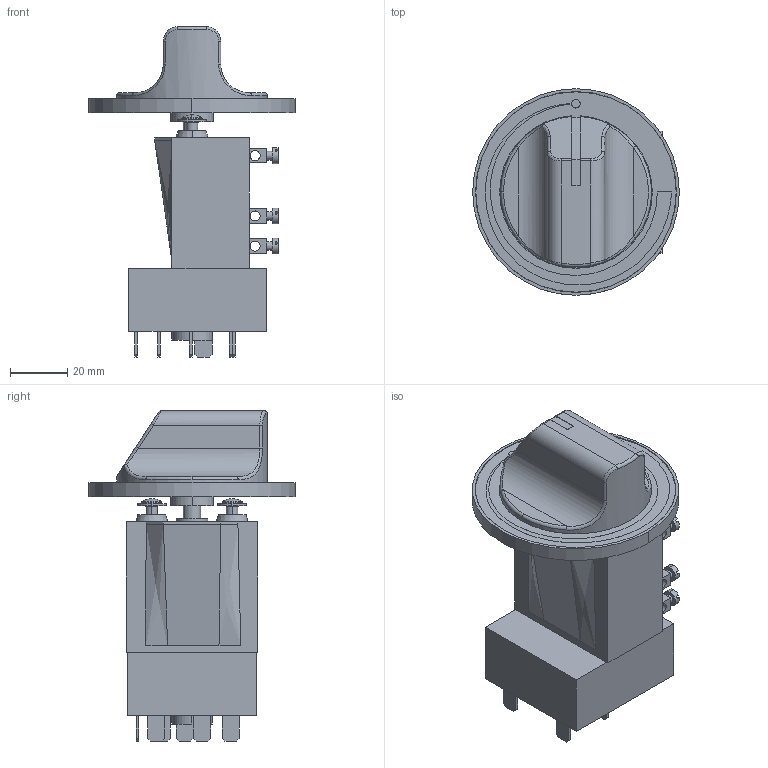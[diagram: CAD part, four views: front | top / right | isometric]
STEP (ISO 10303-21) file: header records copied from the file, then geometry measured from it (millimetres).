
FILE_DESCRIPTION (( 'STEP AP214' ), '1' );
FILE_NAME ('Bedienthermostat Warmhalteplatte.STEP', '2019-02-14T08:25:58', ( '' ), ( '' ), 'SwSTEP 2.0', 'SolidWorks 2018', '' );
FILE_SCHEMA (( 'AUTOMOTIVE_DESIGN' ));
Length unit declared in the file: millimetre
Products named in the file (1): Bedienthermostat Warmhalteplatte
Bounding box: 72 x 72 x 115.2 mm (x, y, z)
Volume: 155537.9 mm3; surface area: 31861.9 mm2
Topology: 1 solids, 9 shells, 356 faces, 853 edges, 556 vertices
Faces by surface type: plane 195, cylinder 100, bspline 29, torus 16, cone 12, sphere 4
Entity records: 11714 total; most frequent: CARTESIAN_POINT 2788, DIRECTION 1726, ORIENTED_EDGE 1698, EDGE_CURVE 849, AXIS2_PLACEMENT_3D 612, VERTEX_POINT 556, VECTOR 502, LINE 502
